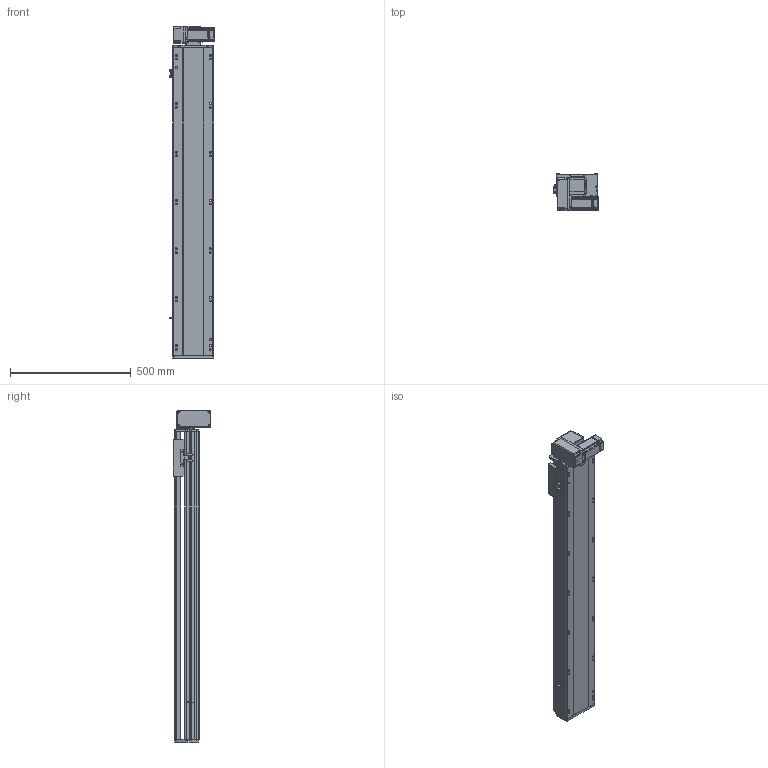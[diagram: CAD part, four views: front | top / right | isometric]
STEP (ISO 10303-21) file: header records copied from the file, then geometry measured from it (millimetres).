
FILE_DESCRIPTION (( 'STEP AP214' ), '1' );
FILE_NAME ('RTB17S-XX-1000-LM-M40-C4.STEP', '2025-12-11T06:26:28', ( '' ), ( '' ), 'SwSTEP 2.0', 'SolidWorks 2018', '' );
FILE_SCHEMA (( 'AUTOMOTIVE_DESIGN' ));
Length unit declared in the file: millimetre
Products named in the file (14): RTB14-L-017P^RTB17S-LM-々湍釱蚾饜-400W_RTB17S-XX-XX-LM-M40-C4; RTB14-L-008-M20--萇儂啣^RTB17S-LM-々湍釱蚾饜-400W_RTB17S-XX-XX-LM-M40-C4; 400W侜督萇儂^RTB17S-XX-XX-LM-M40-C4; RTB17S-L-004佪裝蹟譫蟀諉釱^RTB17S-XX-XX-LM-M40-C4; RTB14-L-018P^RTB17S-LM-々湍釱蚾饜-400W_RTB17S-XX-XX-LM-M40-C4; RMP17S-L-014-T20--々湍釱^RTB17S-LM-々湍釱蚾饜-400W_RTB17S-XX-XX-LM-M40-C4; RTB17S-XX-1000-LM-M40-C4; RTH13-BL-012覜茼え俋离^RTB17S-XX-XX-LM-M40-C4; RTB17S-LM-々湍釱蚾饜-400W^RTB17S-XX-XX-LM-M40-C4; RTB17-R-011菁釱^RTB17S-XX-XX-LM-M40-C4; RTB14-L-005P--轴承塑胶压盖^RTB17S-LM-皮带座装配-400W_RTB17S-XX-XX-LM-M40-C4; RTB17S-L-001耜醱啣^RTB17S-XX-XX-LM-M40-C4; OMRON EE-SX672 传感器^RTB17S-XX-XX-LM-M40-C4; RTB17S-L-007奻裔^RTB17S-XX-XX-LM-M40-C4
Assembly tree (16 placements, depth 3):
  RTB17S-XX-1000-LM-M40-C4
    RTB17-R-011菁釱^RTB17S-XX-XX-LM-M40-C4
    RTB17S-L-007奻裔^RTB17S-XX-XX-LM-M40-C4
    OMRON EE-SX672 传感器^RTB17S-XX-XX-LM-M40-C4  x3
    RTH13-BL-012覜茼え俋离^RTB17S-XX-XX-LM-M40-C4
    RTB17S-L-001耜醱啣^RTB17S-XX-XX-LM-M40-C4
    400W侜督萇儂^RTB17S-XX-XX-LM-M40-C4
    RTB17S-L-004佪裝蹟譫蟀諉釱^RTB17S-XX-XX-LM-M40-C4
    RTB17S-LM-々湍釱蚾饜-400W^RTB17S-XX-XX-LM-M40-C4
      RMP17S-L-014-T20--々湍釱^RTB17S-LM-々湍釱蚾饜-400W_RTB17S-XX-XX-LM-M40-C4
      RTB14-L-005P--轴承塑胶压盖^RTB17S-LM-皮带座装配-400W_RTB17S-XX-XX-LM-M40-C4
      RTB14-L-008-M20--萇儂啣^RTB17S-LM-々湍釱蚾饜-400W_RTB17S-XX-XX-LM-M40-C4
      RTB14-L-017P^RTB17S-LM-々湍釱蚾饜-400W_RTB17S-XX-XX-LM-M40-C4  x2
      RTB14-L-018P^RTB17S-LM-々湍釱蚾饜-400W_RTB17S-XX-XX-LM-M40-C4
Bounding box: 186 x 156.5 x 1372.5 mm (x, y, z)
Volume: 12376987.7 mm3; surface area: 1497165.5 mm2
Topology: 15 solids, 15 shells, 2205 faces, 6087 edges, 3969 vertices
Faces by surface type: plane 1068, cylinder 689, bspline 301, cone 139, torus 8
Entity records: 62633 total; most frequent: CARTESIAN_POINT 17492, ORIENTED_EDGE 9018, DIRECTION 8396, EDGE_CURVE 4509, VERTEX_POINT 2957, AXIS2_PLACEMENT_3D 2887, VECTOR 2622, LINE 2622
